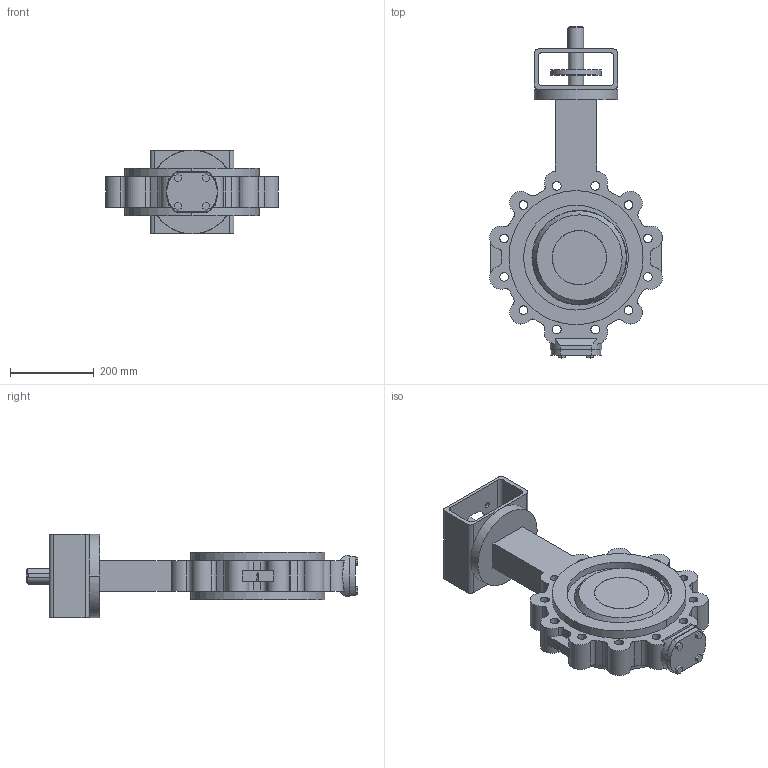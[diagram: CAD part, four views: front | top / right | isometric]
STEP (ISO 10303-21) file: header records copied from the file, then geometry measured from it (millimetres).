
FILE_DESCRIPTION( ( '' ), '1' );
FILE_NAME( 'F:/DE-SHS/TB/OR/04-Sonstiges/daten/files_3d/018_ZETRIX-PN10_freiesWellende/c000006361.stp', '2016-09-01T11:04:27', ( '' ), ( '' ), ' ', ' ', ' ' );
FILE_SCHEMA( ( 'CONFIG_CONTROL_DESIGN' ) );
Length unit declared in the file: millimetre
Products named in the file (1): 1
Bounding box: 412.36 x 792.4 x 200 mm (x, y, z)
Volume: 11879500.7 mm3; surface area: 923232 mm2
Topology: 1 solids, 1 shells, 271 faces, 740 edges, 492 vertices
Faces by surface type: cylinder 158, plane 105, sphere 4, cone 4
Entity records: 9590 total; most frequent: CARTESIAN_POINT 2304, DIRECTION 1596, ORIENTED_EDGE 1480, EDGE_CURVE 740, AXIS2_PLACEMENT_3D 616, VERTEX_POINT 492, LINE 364, VECTOR 364
